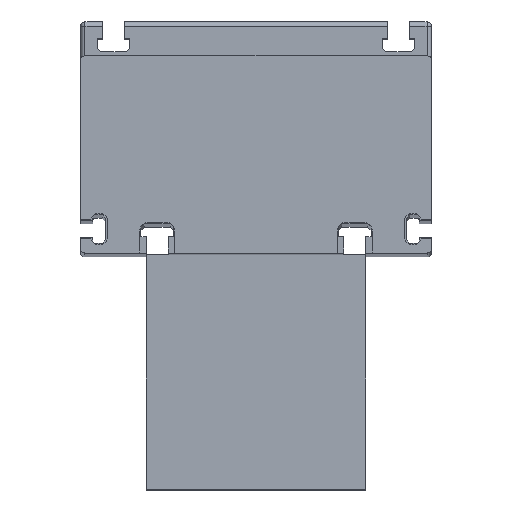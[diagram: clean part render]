
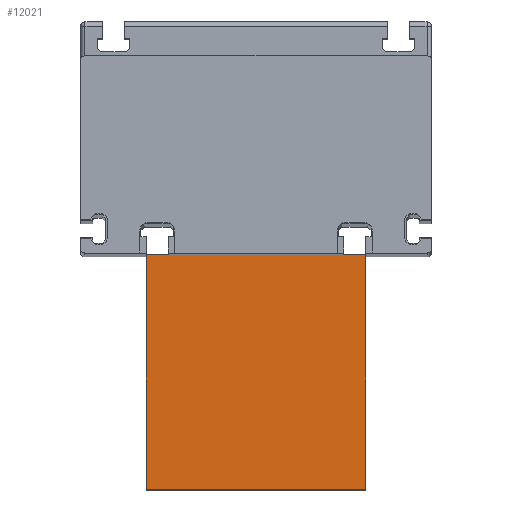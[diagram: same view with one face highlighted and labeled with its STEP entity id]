
A CAD part, top view. The second image highlights one B-rep face of the part: STEP entity #12021.
In plain terms, the highlighted planar face has unit normal (0, 0, 1).
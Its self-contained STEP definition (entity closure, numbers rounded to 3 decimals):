
#4 = AXIS2_PLACEMENT_3D ( 'NONE', #9473, #4748, #9421 ) ;
#80 = VERTEX_POINT ( 'NONE', #5959 ) ;
#131 = EDGE_CURVE ( 'NONE', #2954, #9950, #10068, .T. ) ;
#216 = CARTESIAN_POINT ( 'NONE',  ( -50., 0., 90. ) ) ;
#986 = VECTOR ( 'NONE', #4040, 1000. ) ;
#1094 = ORIENTED_EDGE ( 'NONE', *, *, #3097, .F. ) ;
#1216 = VECTOR ( 'NONE', #12344, 1000. ) ;
#1497 = EDGE_LOOP ( 'NONE', ( #3527, #6555, #1094, #3262 ) ) ;
#1715 = LINE ( 'NONE', #8369, #7878 ) ;
#2613 = PLANE ( 'NONE',  #4 ) ;
#2954 = VERTEX_POINT ( 'NONE', #10874 ) ;
#3097 = EDGE_CURVE ( 'NONE', #2954, #4596, #10463, .T. ) ;
#3262 = ORIENTED_EDGE ( 'NONE', *, *, #131, .T. ) ;
#3523 = DIRECTION ( 'NONE',  ( -1., 0., 0. ) ) ;
#3527 = ORIENTED_EDGE ( 'NONE', *, *, #9116, .T. ) ;
#4040 = DIRECTION ( 'NONE',  ( 0., -1., 0. ) ) ;
#4531 = CARTESIAN_POINT ( 'NONE',  ( 50., 107., 90. ) ) ;
#4596 = VERTEX_POINT ( 'NONE', #6452 ) ;
#4748 = DIRECTION ( 'NONE',  ( 0., 0., -1. ) ) ;
#5612 = VECTOR ( 'NONE', #8302, 1000. ) ;
#5959 = CARTESIAN_POINT ( 'NONE',  ( -50., 0., 90. ) ) ;
#6441 = EDGE_CURVE ( 'NONE', #4596, #80, #1715, .T. ) ;
#6452 = CARTESIAN_POINT ( 'NONE',  ( 50., 0., 90. ) ) ;
#6555 = ORIENTED_EDGE ( 'NONE', *, *, #6441, .F. ) ;
#7878 = VECTOR ( 'NONE', #3523, 1000. ) ;
#8302 = DIRECTION ( 'NONE',  ( -1., 0., 0. ) ) ;
#8369 = CARTESIAN_POINT ( 'NONE',  ( 50., 0., 90. ) ) ;
#9116 = EDGE_CURVE ( 'NONE', #9950, #80, #9836, .T. ) ;
#9421 = DIRECTION ( 'NONE',  ( 0., 1., 0. ) ) ;
#9473 = CARTESIAN_POINT ( 'NONE',  ( 50., 0., 90. ) ) ;
#9836 = LINE ( 'NONE', #216, #986 ) ;
#9950 = VERTEX_POINT ( 'NONE', #11013 ) ;
#10068 = LINE ( 'NONE', #4531, #5612 ) ;
#10230 = FACE_OUTER_BOUND ( 'NONE', #1497, .T. ) ;
#10463 = LINE ( 'NONE', #12224, #1216 ) ;
#10874 = CARTESIAN_POINT ( 'NONE',  ( 50., 107., 90. ) ) ;
#11013 = CARTESIAN_POINT ( 'NONE',  ( -50., 107., 90. ) ) ;
#12021 = ADVANCED_FACE ( 'NONE', ( #10230 ), #2613, .F. ) ;
#12224 = CARTESIAN_POINT ( 'NONE',  ( 50., 0., 90. ) ) ;
#12344 = DIRECTION ( 'NONE',  ( 0., -1., 0. ) ) ;
